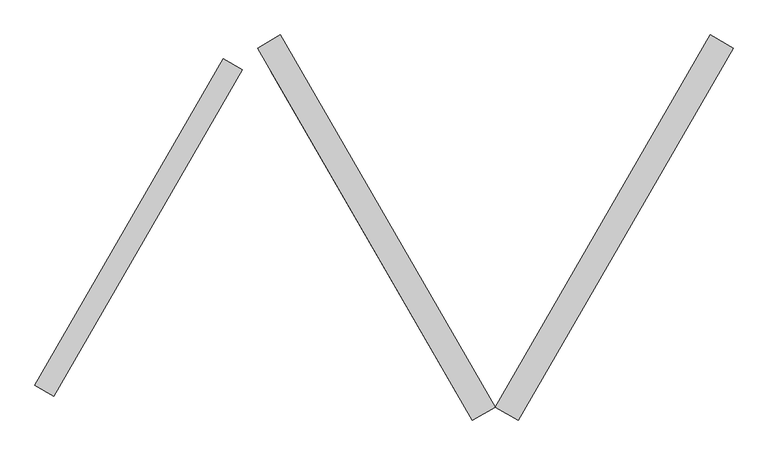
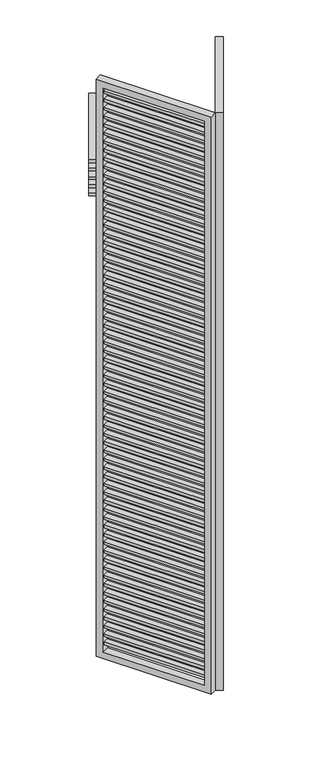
"""IFC4 building model written with IfcOpenShell, lengths in millimetres: proxy geometry, Renson_Amani_Loggia_Plano_Folding : Renson_Amani_Loggia_Plano_Folding."""

from ifc_helpers import new_model, si_unit, frame, origin, place, context, project, spatial, polyline, outline, extrude, source, transform, mapped, element, save


def generic_models_be9513f8(model_context):
    return source(origin(), model_context, "Body", "SweptSolid", [
        extrude(outline(polyline([(2105.6721051, 546.5254963), (2134.2509434, 530.0254963), (1849.2509434, 36.3910162), (1820.6721051, 52.8910162), (2105.6721051, 546.5254963)])), frame((0.0, 0.0, 3427.0), z_axis=(0.0, 0.0, 1.0), x_axis=(1.0, 0.0, 0.0)), (0.0, 0.0, 1.0), 16.0),
        extrude(outline(polyline([(2105.6721051, 546.5254963), (2134.2509434, 530.0254963), (1849.2509434, 36.3910162), (1820.6721051, 52.8910162), (2105.6721051, 546.5254963)])), frame((0.0, 0.0, 3377.0), z_axis=(0.0, 0.0, 1.0), x_axis=(1.0, 0.0, 0.0)), (0.0, 0.0, 1.0), 16.0),
        extrude(outline(polyline([(2105.6721051, 546.5254963), (2134.2509434, 530.0254963), (1849.2509434, 36.3910162), (1820.6721051, 52.8910162), (2105.6721051, 546.5254963)])), frame((0.0, 0.0, 3327.0), z_axis=(0.0, 0.0, 1.0), x_axis=(1.0, 0.0, 0.0)), (0.0, 0.0, 1.0), 16.0),
        extrude(outline(polyline([(2105.6721051, 546.5254963), (2134.2509434, 530.0254963), (1849.2509434, 36.3910162), (1820.6721051, 52.8910162), (2105.6721051, 546.5254963)])), frame((0.0, 0.0, 3277.0), z_axis=(0.0, 0.0, 1.0), x_axis=(1.0, 0.0, 0.0)), (0.0, 0.0, 1.0), 16.0),
        extrude(outline(polyline([(2105.6721051, 546.5254963), (2134.2509434, 530.0254963), (1849.2509434, 36.3910162), (1820.6721051, 52.8910162), (2105.6721051, 546.5254963)])), frame((0.0, 0.0, 3227.0), z_axis=(0.0, 0.0, 1.0), x_axis=(1.0, 0.0, 0.0)), (0.0, 0.0, 1.0), 16.0),
        extrude(outline(polyline([(2105.6721051, 546.5254963), (2134.2509434, 530.0254963), (1849.2509434, 36.3910162), (1820.6721051, 52.8910162), (2105.6721051, 546.5254963)])), frame((0.0, 0.0, 3177.0), z_axis=(0.0, 0.0, 1.0), x_axis=(1.0, 0.0, 0.0)), (0.0, 0.0, 1.0), 16.0),
        extrude(outline(polyline([(2105.6721051, 546.5254963), (2134.2509434, 530.0254963), (1849.2509434, 36.3910162), (1820.6721051, 52.8910162), (2105.6721051, 546.5254963)])), frame((0.0, 0.0, 3127.0), z_axis=(0.0, 0.0, 1.0), x_axis=(1.0, 0.0, 0.0)), (0.0, 0.0, 1.0), 16.0),
        extrude(outline(polyline([(2105.6721051, 546.5254963), (2134.2509434, 530.0254963), (1849.2509434, 36.3910162), (1820.6721051, 52.8910162), (2105.6721051, 546.5254963)])), frame((0.0, 0.0, 3077.0), z_axis=(0.0, 0.0, 1.0), x_axis=(1.0, 0.0, 0.0)), (0.0, 0.0, 1.0), 16.0),
        extrude(outline(polyline([(2105.6721051, 546.5254963), (2134.2509434, 530.0254963), (1849.2509434, 36.3910162), (1820.6721051, 52.8910162), (2105.6721051, 546.5254963)])), frame((0.0, 0.0, 3027.0), z_axis=(0.0, 0.0, 1.0), x_axis=(1.0, 0.0, 0.0)), (0.0, 0.0, 1.0), 16.0),
        extrude(outline(polyline([(2105.6721051, 546.5254963), (2134.2509434, 530.0254963), (1849.2509434, 36.3910162), (1820.6721051, 52.8910162), (2105.6721051, 546.5254963)])), frame((0.0, 0.0, 2977.0), z_axis=(0.0, 0.0, 1.0), x_axis=(1.0, 0.0, 0.0)), (0.0, 0.0, 1.0), 16.0),
        extrude(outline(polyline([(2105.6721051, 546.5254963), (2134.2509434, 530.0254963), (1849.2509434, 36.3910162), (1820.6721051, 52.8910162), (2105.6721051, 546.5254963)])), frame((0.0, 0.0, 2927.0), z_axis=(0.0, 0.0, 1.0), x_axis=(1.0, 0.0, 0.0)), (0.0, 0.0, 1.0), 16.0),
        extrude(outline(polyline([(2105.6721051, 546.5254963), (2134.2509434, 530.0254963), (1849.2509434, 36.3910162), (1820.6721051, 52.8910162), (2105.6721051, 546.5254963)])), frame((0.0, 0.0, 2877.0), z_axis=(0.0, 0.0, 1.0), x_axis=(1.0, 0.0, 0.0)), (0.0, 0.0, 1.0), 16.0),
        extrude(outline(polyline([(2105.6721051, 546.5254963), (2134.2509434, 530.0254963), (1849.2509434, 36.3910162), (1820.6721051, 52.8910162), (2105.6721051, 546.5254963)])), frame((0.0, 0.0, 2827.0), z_axis=(0.0, 0.0, 1.0), x_axis=(1.0, 0.0, 0.0)), (0.0, 0.0, 1.0), 16.0),
        extrude(outline(polyline([(2105.6721051, 546.5254963), (2134.2509434, 530.0254963), (1849.2509434, 36.3910162), (1820.6721051, 52.8910162), (2105.6721051, 546.5254963)])), frame((0.0, 0.0, 2777.0), z_axis=(0.0, 0.0, 1.0), x_axis=(1.0, 0.0, 0.0)), (0.0, 0.0, 1.0), 16.0),
        extrude(outline(polyline([(2105.6721051, 546.5254963), (2134.2509434, 530.0254963), (1849.2509434, 36.3910162), (1820.6721051, 52.8910162), (2105.6721051, 546.5254963)])), frame((0.0, 0.0, 2727.0), z_axis=(0.0, 0.0, 1.0), x_axis=(1.0, 0.0, 0.0)), (0.0, 0.0, 1.0), 16.0),
        extrude(outline(polyline([(2105.6721051, 546.5254963), (2134.2509434, 530.0254963), (1849.2509434, 36.3910162), (1820.6721051, 52.8910162), (2105.6721051, 546.5254963)])), frame((0.0, 0.0, 2677.0), z_axis=(0.0, 0.0, 1.0), x_axis=(1.0, 0.0, 0.0)), (0.0, 0.0, 1.0), 16.0),
        extrude(outline(polyline([(2105.6721051, 546.5254963), (2134.2509434, 530.0254963), (1849.2509434, 36.3910162), (1820.6721051, 52.8910162), (2105.6721051, 546.5254963)])), frame((0.0, 0.0, 2627.0), z_axis=(0.0, 0.0, 1.0), x_axis=(1.0, 0.0, 0.0)), (0.0, 0.0, 1.0), 16.0),
        extrude(outline(polyline([(2105.6721051, 546.5254963), (2134.2509434, 530.0254963), (1849.2509434, 36.3910162), (1820.6721051, 52.8910162), (2105.6721051, 546.5254963)])), frame((0.0, 0.0, 2577.0), z_axis=(0.0, 0.0, 1.0), x_axis=(1.0, 0.0, 0.0)), (0.0, 0.0, 1.0), 16.0),
        extrude(outline(polyline([(2105.6721051, 546.5254963), (2134.2509434, 530.0254963), (1849.2509434, 36.3910162), (1820.6721051, 52.8910162), (2105.6721051, 546.5254963)])), frame((0.0, 0.0, 2527.0), z_axis=(0.0, 0.0, 1.0), x_axis=(1.0, 0.0, 0.0)), (0.0, 0.0, 1.0), 16.0),
        extrude(outline(polyline([(2105.6721051, 546.5254963), (2134.2509434, 530.0254963), (1849.2509434, 36.3910162), (1820.6721051, 52.8910162), (2105.6721051, 546.5254963)])), frame((0.0, 0.0, 2477.0), z_axis=(0.0, 0.0, 1.0), x_axis=(1.0, 0.0, 0.0)), (0.0, 0.0, 1.0), 16.0),
        extrude(outline(polyline([(2105.6721051, 546.5254963), (2134.2509434, 530.0254963), (1849.2509434, 36.3910162), (1820.6721051, 52.8910162), (2105.6721051, 546.5254963)])), frame((0.0, 0.0, 2427.0), z_axis=(0.0, 0.0, 1.0), x_axis=(1.0, 0.0, 0.0)), (0.0, 0.0, 1.0), 16.0),
        extrude(outline(polyline([(2105.6721051, 546.5254963), (2134.2509434, 530.0254963), (1849.2509434, 36.3910162), (1820.6721051, 52.8910162), (2105.6721051, 546.5254963)])), frame((0.0, 0.0, 2377.0), z_axis=(0.0, 0.0, 1.0), x_axis=(1.0, 0.0, 0.0)), (0.0, 0.0, 1.0), 16.0),
        extrude(outline(polyline([(2105.6721051, 546.5254963), (2134.2509434, 530.0254963), (1849.2509434, 36.3910162), (1820.6721051, 52.8910162), (2105.6721051, 546.5254963)])), frame((0.0, 0.0, 2327.0), z_axis=(0.0, 0.0, 1.0), x_axis=(1.0, 0.0, 0.0)), (0.0, 0.0, 1.0), 16.0),
        extrude(outline(polyline([(2105.6721051, 546.5254963), (2134.2509434, 530.0254963), (1849.2509434, 36.3910162), (1820.6721051, 52.8910162), (2105.6721051, 546.5254963)])), frame((0.0, 0.0, 2277.0), z_axis=(0.0, 0.0, 1.0), x_axis=(1.0, 0.0, 0.0)), (0.0, 0.0, 1.0), 16.0),
        extrude(outline(polyline([(2105.6721051, 546.5254963), (2134.2509434, 530.0254963), (1849.2509434, 36.3910162), (1820.6721051, 52.8910162), (2105.6721051, 546.5254963)])), frame((0.0, 0.0, 2227.0), z_axis=(0.0, 0.0, 1.0), x_axis=(1.0, 0.0, 0.0)), (0.0, 0.0, 1.0), 16.0),
        extrude(outline(polyline([(2105.6721051, 546.5254963), (2134.2509434, 530.0254963), (1849.2509434, 36.3910162), (1820.6721051, 52.8910162), (2105.6721051, 546.5254963)])), frame((0.0, 0.0, 2177.0), z_axis=(0.0, 0.0, 1.0), x_axis=(1.0, 0.0, 0.0)), (0.0, 0.0, 1.0), 16.0),
        extrude(outline(polyline([(2105.6721051, 546.5254963), (2134.2509434, 530.0254963), (1849.2509434, 36.3910162), (1820.6721051, 52.8910162), (2105.6721051, 546.5254963)])), frame((0.0, 0.0, 2127.0), z_axis=(0.0, 0.0, 1.0), x_axis=(1.0, 0.0, 0.0)), (0.0, 0.0, 1.0), 16.0),
        extrude(outline(polyline([(2105.6721051, 546.5254963), (2134.2509434, 530.0254963), (1849.2509434, 36.3910162), (1820.6721051, 52.8910162), (2105.6721051, 546.5254963)])), frame((0.0, 0.0, 2077.0), z_axis=(0.0, 0.0, 1.0), x_axis=(1.0, 0.0, 0.0)), (0.0, 0.0, 1.0), 16.0),
        extrude(outline(polyline([(2105.6721051, 546.5254963), (2134.2509434, 530.0254963), (1849.2509434, 36.3910162), (1820.6721051, 52.8910162), (2105.6721051, 546.5254963)])), frame((0.0, 0.0, 2027.0), z_axis=(0.0, 0.0, 1.0), x_axis=(1.0, 0.0, 0.0)), (0.0, 0.0, 1.0), 16.0),
        extrude(outline(polyline([(2105.6721051, 546.5254963), (2134.2509434, 530.0254963), (1849.2509434, 36.3910162), (1820.6721051, 52.8910162), (2105.6721051, 546.5254963)])), frame((0.0, 0.0, 1977.0), z_axis=(0.0, 0.0, 1.0), x_axis=(1.0, 0.0, 0.0)), (0.0, 0.0, 1.0), 16.0),
        extrude(outline(polyline([(2105.6721051, 546.5254963), (2134.2509434, 530.0254963), (1849.2509434, 36.3910162), (1820.6721051, 52.8910162), (2105.6721051, 546.5254963)])), frame((0.0, 0.0, 1927.0), z_axis=(0.0, 0.0, 1.0), x_axis=(1.0, 0.0, 0.0)), (0.0, 0.0, 1.0), 16.0),
        extrude(outline(polyline([(2105.6721051, 546.5254963), (2134.2509434, 530.0254963), (1849.2509434, 36.3910162), (1820.6721051, 52.8910162), (2105.6721051, 546.5254963)])), frame((0.0, 0.0, 1877.0), z_axis=(0.0, 0.0, 1.0), x_axis=(1.0, 0.0, 0.0)), (0.0, 0.0, 1.0), 16.0),
        extrude(outline(polyline([(2105.6721051, 546.5254963), (2134.2509434, 530.0254963), (1849.2509434, 36.3910162), (1820.6721051, 52.8910162), (2105.6721051, 546.5254963)])), frame((0.0, 0.0, 1827.0), z_axis=(0.0, 0.0, 1.0), x_axis=(1.0, 0.0, 0.0)), (0.0, 0.0, 1.0), 16.0),
        extrude(outline(polyline([(2105.6721051, 546.5254963), (2134.2509434, 530.0254963), (1849.2509434, 36.3910162), (1820.6721051, 52.8910162), (2105.6721051, 546.5254963)])), frame((0.0, 0.0, 1777.0), z_axis=(0.0, 0.0, 1.0), x_axis=(1.0, 0.0, 0.0)), (0.0, 0.0, 1.0), 16.0),
        extrude(outline(polyline([(2105.6721051, 546.5254963), (2134.2509434, 530.0254963), (1849.2509434, 36.3910162), (1820.6721051, 52.8910162), (2105.6721051, 546.5254963)])), frame((0.0, 0.0, 1727.0), z_axis=(0.0, 0.0, 1.0), x_axis=(1.0, 0.0, 0.0)), (0.0, 0.0, 1.0), 16.0),
        extrude(outline(polyline([(2105.6721051, 546.5254963), (2134.2509434, 530.0254963), (1849.2509434, 36.3910162), (1820.6721051, 52.8910162), (2105.6721051, 546.5254963)])), frame((0.0, 0.0, 1677.0), z_axis=(0.0, 0.0, 1.0), x_axis=(1.0, 0.0, 0.0)), (0.0, 0.0, 1.0), 16.0),
        extrude(outline(polyline([(2105.6721051, 546.5254963), (2134.2509434, 530.0254963), (1849.2509434, 36.3910162), (1820.6721051, 52.8910162), (2105.6721051, 546.5254963)])), frame((0.0, 0.0, 1627.0), z_axis=(0.0, 0.0, 1.0), x_axis=(1.0, 0.0, 0.0)), (0.0, 0.0, 1.0), 16.0),
        extrude(outline(polyline([(2105.6721051, 546.5254963), (2134.2509434, 530.0254963), (1849.2509434, 36.3910162), (1820.6721051, 52.8910162), (2105.6721051, 546.5254963)])), frame((0.0, 0.0, 1577.0), z_axis=(0.0, 0.0, 1.0), x_axis=(1.0, 0.0, 0.0)), (0.0, 0.0, 1.0), 16.0),
        extrude(outline(polyline([(2105.6721051, 546.5254963), (2134.2509434, 530.0254963), (1849.2509434, 36.3910162), (1820.6721051, 52.8910162), (2105.6721051, 546.5254963)])), frame((0.0, 0.0, 1527.0), z_axis=(0.0, 0.0, 1.0), x_axis=(1.0, 0.0, 0.0)), (0.0, 0.0, 1.0), 16.0),
        extrude(outline(polyline([(2105.6721051, 546.5254963), (2134.2509434, 530.0254963), (1849.2509434, 36.3910162), (1820.6721051, 52.8910162), (2105.6721051, 546.5254963)])), frame((0.0, 0.0, 1477.0), z_axis=(0.0, 0.0, 1.0), x_axis=(1.0, 0.0, 0.0)), (0.0, 0.0, 1.0), 16.0),
        extrude(outline(polyline([(2105.6721051, 546.5254963), (2134.2509434, 530.0254963), (1849.2509434, 36.3910162), (1820.6721051, 52.8910162), (2105.6721051, 546.5254963)])), frame((0.0, 0.0, 1427.0), z_axis=(0.0, 0.0, 1.0), x_axis=(1.0, 0.0, 0.0)), (0.0, 0.0, 1.0), 16.0),
        extrude(outline(polyline([(2105.6721051, 546.5254963), (2134.2509434, 530.0254963), (1849.2509434, 36.3910162), (1820.6721051, 52.8910162), (2105.6721051, 546.5254963)])), frame((0.0, 0.0, 1377.0), z_axis=(0.0, 0.0, 1.0), x_axis=(1.0, 0.0, 0.0)), (0.0, 0.0, 1.0), 16.0),
        extrude(outline(polyline([(2105.6721051, 546.5254963), (2134.2509434, 530.0254963), (1849.2509434, 36.3910162), (1820.6721051, 52.8910162), (2105.6721051, 546.5254963)])), frame((0.0, 0.0, 1327.0), z_axis=(0.0, 0.0, 1.0), x_axis=(1.0, 0.0, 0.0)), (0.0, 0.0, 1.0), 16.0),
        extrude(outline(polyline([(2105.6721051, 546.5254963), (2134.2509434, 530.0254963), (1849.2509434, 36.3910162), (1820.6721051, 52.8910162), (2105.6721051, 546.5254963)])), frame((0.0, 0.0, 1277.0), z_axis=(0.0, 0.0, 1.0), x_axis=(1.0, 0.0, 0.0)), (0.0, 0.0, 1.0), 16.0),
        extrude(outline(polyline([(2105.6721051, 546.5254963), (2134.2509434, 530.0254963), (1849.2509434, 36.3910162), (1820.6721051, 52.8910162), (2105.6721051, 546.5254963)])), frame((0.0, 0.0, 1227.0), z_axis=(0.0, 0.0, 1.0), x_axis=(1.0, 0.0, 0.0)), (0.0, 0.0, 1.0), 16.0),
        extrude(outline(polyline([(2105.6721051, 546.5254963), (2134.2509434, 530.0254963), (1849.2509434, 36.3910162), (1820.6721051, 52.8910162), (2105.6721051, 546.5254963)])), frame((0.0, 0.0, 1177.0), z_axis=(0.0, 0.0, 1.0), x_axis=(1.0, 0.0, 0.0)), (0.0, 0.0, 1.0), 16.0),
        extrude(outline(polyline([(2105.6721051, 546.5254963), (2134.2509434, 530.0254963), (1849.2509434, 36.3910162), (1820.6721051, 52.8910162), (2105.6721051, 546.5254963)])), frame((0.0, 0.0, 1127.0), z_axis=(0.0, 0.0, 1.0), x_axis=(1.0, 0.0, 0.0)), (0.0, 0.0, 1.0), 16.0),
        extrude(outline(polyline([(2105.6721051, 546.5254963), (2134.2509434, 530.0254963), (1849.2509434, 36.3910162), (1820.6721051, 52.8910162), (2105.6721051, 546.5254963)])), frame((0.0, 0.0, 1077.0), z_axis=(0.0, 0.0, 1.0), x_axis=(1.0, 0.0, 0.0)), (0.0, 0.0, 1.0), 16.0),
        extrude(outline(polyline([(2105.6721051, 546.5254963), (2134.2509434, 530.0254963), (1849.2509434, 36.3910162), (1820.6721051, 52.8910162), (2105.6721051, 546.5254963)])), frame((0.0, 0.0, 1027.0), z_axis=(0.0, 0.0, 1.0), x_axis=(1.0, 0.0, 0.0)), (0.0, 0.0, 1.0), 16.0),
        extrude(outline(polyline([(2105.6721051, 546.5254963), (2134.2509434, 530.0254963), (1849.2509434, 36.3910162), (1820.6721051, 52.8910162), (2105.6721051, 546.5254963)])), frame((0.0, 0.0, 977.0), z_axis=(0.0, 0.0, 1.0), x_axis=(1.0, 0.0, 0.0)), (0.0, 0.0, 1.0), 16.0),
        extrude(outline(polyline([(2105.6721051, 546.5254963), (2134.2509434, 530.0254963), (1849.2509434, 36.3910162), (1820.6721051, 52.8910162), (2105.6721051, 546.5254963)])), frame((0.0, 0.0, 927.0), z_axis=(0.0, 0.0, 1.0), x_axis=(1.0, 0.0, 0.0)), (0.0, 0.0, 1.0), 16.0),
        extrude(outline(polyline([(2105.6721051, 546.5254963), (2134.2509434, 530.0254963), (1849.2509434, 36.3910162), (1820.6721051, 52.8910162), (2105.6721051, 546.5254963)])), frame((0.0, 0.0, 877.0), z_axis=(0.0, 0.0, 1.0), x_axis=(1.0, 0.0, 0.0)), (0.0, 0.0, 1.0), 16.0),
        extrude(outline(polyline([(2105.6721051, 546.5254963), (2134.2509434, 530.0254963), (1849.2509434, 36.3910162), (1820.6721051, 52.8910162), (2105.6721051, 546.5254963)])), frame((0.0, 0.0, 827.0), z_axis=(0.0, 0.0, 1.0), x_axis=(1.0, 0.0, 0.0)), (0.0, 0.0, 1.0), 16.0),
        extrude(outline(polyline([(2105.6721051, 546.5254963), (2134.2509434, 530.0254963), (1849.2509434, 36.3910162), (1820.6721051, 52.8910162), (2105.6721051, 546.5254963)])), frame((0.0, 0.0, 777.0), z_axis=(0.0, 0.0, 1.0), x_axis=(1.0, 0.0, 0.0)), (0.0, 0.0, 1.0), 16.0),
        extrude(outline(polyline([(2105.6721051, 546.5254963), (2134.2509434, 530.0254963), (1849.2509434, 36.3910162), (1820.6721051, 52.8910162), (2105.6721051, 546.5254963)])), frame((0.0, 0.0, 727.0), z_axis=(0.0, 0.0, 1.0), x_axis=(1.0, 0.0, 0.0)), (0.0, 0.0, 1.0), 16.0),
        extrude(outline(polyline([(2105.6721051, 546.5254963), (2134.2509434, 530.0254963), (1849.2509434, 36.3910162), (1820.6721051, 52.8910162), (2105.6721051, 546.5254963)])), frame((0.0, 0.0, 677.0), z_axis=(0.0, 0.0, 1.0), x_axis=(1.0, 0.0, 0.0)), (0.0, 0.0, 1.0), 16.0),
        extrude(outline(polyline([(2105.6721051, 546.5254963), (2134.2509434, 530.0254963), (1849.2509434, 36.3910162), (1820.6721051, 52.8910162), (2105.6721051, 546.5254963)])), frame((0.0, 0.0, 627.0), z_axis=(0.0, 0.0, 1.0), x_axis=(1.0, 0.0, 0.0)), (0.0, 0.0, 1.0), 16.0),
        extrude(outline(polyline([(2105.6721051, 546.5254963), (2134.2509434, 530.0254963), (1849.2509434, 36.3910162), (1820.6721051, 52.8910162), (2105.6721051, 546.5254963)])), frame((0.0, 0.0, 577.0), z_axis=(0.0, 0.0, 1.0), x_axis=(1.0, 0.0, 0.0)), (0.0, 0.0, 1.0), 16.0),
        extrude(outline(polyline([(2105.6721051, 546.5254963), (2134.2509434, 530.0254963), (1849.2509434, 36.3910162), (1820.6721051, 52.8910162), (2105.6721051, 546.5254963)])), frame((0.0, 0.0, 527.0), z_axis=(0.0, 0.0, 1.0), x_axis=(1.0, 0.0, 0.0)), (0.0, 0.0, 1.0), 16.0),
        extrude(outline(polyline([(2105.6721051, 546.5254963), (2134.2509434, 530.0254963), (1849.2509434, 36.3910162), (1820.6721051, 52.8910162), (2105.6721051, 546.5254963)])), frame((0.0, 0.0, 477.0), z_axis=(0.0, 0.0, 1.0), x_axis=(1.0, 0.0, 0.0)), (0.0, 0.0, 1.0), 16.0),
        extrude(outline(polyline([(2105.6721051, 546.5254963), (2134.2509434, 530.0254963), (1849.2509434, 36.3910162), (1820.6721051, 52.8910162), (2105.6721051, 546.5254963)])), frame((0.0, 0.0, 427.0), z_axis=(0.0, 0.0, 1.0), x_axis=(1.0, 0.0, 0.0)), (0.0, 0.0, 1.0), 16.0),
        extrude(outline(polyline([(2105.6721051, 546.5254963), (2134.2509434, 530.0254963), (1849.2509434, 36.3910162), (1820.6721051, 52.8910162), (2105.6721051, 546.5254963)])), frame((0.0, 0.0, 377.0), z_axis=(0.0, 0.0, 1.0), x_axis=(1.0, 0.0, 0.0)), (0.0, 0.0, 1.0), 16.0),
        extrude(outline(polyline([(2105.6721051, 546.5254963), (2134.2509434, 530.0254963), (1849.2509434, 36.3910162), (1820.6721051, 52.8910162), (2105.6721051, 546.5254963)])), frame((0.0, 0.0, 327.0), z_axis=(0.0, 0.0, 1.0), x_axis=(1.0, 0.0, 0.0)), (0.0, 0.0, 1.0), 16.0),
        extrude(outline(polyline([(2105.6721051, 546.5254963), (2134.2509434, 530.0254963), (1849.2509434, 36.3910162), (1820.6721051, 52.8910162), (2105.6721051, 546.5254963)])), frame((0.0, 0.0, 277.0), z_axis=(0.0, 0.0, 1.0), x_axis=(1.0, 0.0, 0.0)), (0.0, 0.0, 1.0), 16.0),
        extrude(outline(polyline([(2105.6721051, 546.5254963), (2134.2509434, 530.0254963), (1849.2509434, 36.3910162), (1820.6721051, 52.8910162), (2105.6721051, 546.5254963)])), frame((0.0, 0.0, 227.0), z_axis=(0.0, 0.0, 1.0), x_axis=(1.0, 0.0, 0.0)), (0.0, 0.0, 1.0), 16.0),
        extrude(outline(polyline([(2105.6721051, 546.5254963), (2134.2509434, 530.0254963), (1849.2509434, 36.3910162), (1820.6721051, 52.8910162), (2105.6721051, 546.5254963)])), frame((0.0, 0.0, 177.0), z_axis=(0.0, 0.0, 1.0), x_axis=(1.0, 0.0, 0.0)), (0.0, 0.0, 1.0), 16.0),
        extrude(outline(polyline([(2105.6721051, 546.5254963), (2134.2509434, 530.0254963), (1849.2509434, 36.3910162), (1820.6721051, 52.8910162), (2105.6721051, 546.5254963)])), frame((0.0, 0.0, 127.0), z_axis=(0.0, 0.0, 1.0), x_axis=(1.0, 0.0, 0.0)), (0.0, 0.0, 1.0), 16.0),
        extrude(outline(polyline([(3415.0, -40.0), (-40.0, -40.0), (-40.0, 610.0), (3415.0, 610.0), (3415.0, -40.0)]), holes=[polyline([(3375.0, 570.0), (0.0, 570.0), (0.0, 0.0), (3375.0, 0.0), (3375.0, 570.0)])]), frame((1852.2820323, 34.6410162, 85.0), z_axis=(-0.8660254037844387, 0.49999999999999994, 0.0), x_axis=(0.0, 0.0, 1.0)), (0.0, 0.0, 1.0), 40.0),
        extrude(outline(polyline([(1774.8919595, 52.8910162), (1746.3131212, 36.3910162), (1461.3131212, 530.0254963), (1489.8919595, 546.5254963), (1774.8919595, 52.8910162)])), frame((0.0, 0.0, 3427.0), z_axis=(0.0, 0.0, 1.0), x_axis=(1.0, 0.0, 0.0)), (0.0, 0.0, 1.0), 16.0),
        extrude(outline(polyline([(1774.8919595, 52.8910162), (1746.3131212, 36.3910162), (1461.3131212, 530.0254963), (1489.8919595, 546.5254963), (1774.8919595, 52.8910162)])), frame((0.0, 0.0, 3377.0), z_axis=(0.0, 0.0, 1.0), x_axis=(1.0, 0.0, 0.0)), (0.0, 0.0, 1.0), 16.0),
        extrude(outline(polyline([(1774.8919595, 52.8910162), (1746.3131212, 36.3910162), (1461.3131212, 530.0254963), (1489.8919595, 546.5254963), (1774.8919595, 52.8910162)])), frame((0.0, 0.0, 3327.0), z_axis=(0.0, 0.0, 1.0), x_axis=(1.0, 0.0, 0.0)), (0.0, 0.0, 1.0), 16.0),
        extrude(outline(polyline([(1774.8919595, 52.8910162), (1746.3131212, 36.3910162), (1461.3131212, 530.0254963), (1489.8919595, 546.5254963), (1774.8919595, 52.8910162)])), frame((0.0, 0.0, 3277.0), z_axis=(0.0, 0.0, 1.0), x_axis=(1.0, 0.0, 0.0)), (0.0, 0.0, 1.0), 16.0),
        extrude(outline(polyline([(1774.8919595, 52.8910162), (1746.3131212, 36.3910162), (1461.3131212, 530.0254963), (1489.8919595, 546.5254963), (1774.8919595, 52.8910162)])), frame((0.0, 0.0, 3227.0), z_axis=(0.0, 0.0, 1.0), x_axis=(1.0, 0.0, 0.0)), (0.0, 0.0, 1.0), 16.0),
        extrude(outline(polyline([(1774.8919595, 52.8910162), (1746.3131212, 36.3910162), (1461.3131212, 530.0254963), (1489.8919595, 546.5254963), (1774.8919595, 52.8910162)])), frame((0.0, 0.0, 3177.0), z_axis=(0.0, 0.0, 1.0), x_axis=(1.0, 0.0, 0.0)), (0.0, 0.0, 1.0), 16.0),
        extrude(outline(polyline([(1774.8919595, 52.8910162), (1746.3131212, 36.3910162), (1461.3131212, 530.0254963), (1489.8919595, 546.5254963), (1774.8919595, 52.8910162)])), frame((0.0, 0.0, 3127.0), z_axis=(0.0, 0.0, 1.0), x_axis=(1.0, 0.0, 0.0)), (0.0, 0.0, 1.0), 16.0),
        extrude(outline(polyline([(1774.8919595, 52.8910162), (1746.3131212, 36.3910162), (1461.3131212, 530.0254963), (1489.8919595, 546.5254963), (1774.8919595, 52.8910162)])), frame((0.0, 0.0, 3077.0), z_axis=(0.0, 0.0, 1.0), x_axis=(1.0, 0.0, 0.0)), (0.0, 0.0, 1.0), 16.0),
        extrude(outline(polyline([(1774.8919595, 52.8910162), (1746.3131212, 36.3910162), (1461.3131212, 530.0254963), (1489.8919595, 546.5254963), (1774.8919595, 52.8910162)])), frame((0.0, 0.0, 3027.0), z_axis=(0.0, 0.0, 1.0), x_axis=(1.0, 0.0, 0.0)), (0.0, 0.0, 1.0), 16.0),
        extrude(outline(polyline([(1774.8919595, 52.8910162), (1746.3131212, 36.3910162), (1461.3131212, 530.0254963), (1489.8919595, 546.5254963), (1774.8919595, 52.8910162)])), frame((0.0, 0.0, 2977.0), z_axis=(0.0, 0.0, 1.0), x_axis=(1.0, 0.0, 0.0)), (0.0, 0.0, 1.0), 16.0),
        extrude(outline(polyline([(1774.8919595, 52.8910162), (1746.3131212, 36.3910162), (1461.3131212, 530.0254963), (1489.8919595, 546.5254963), (1774.8919595, 52.8910162)])), frame((0.0, 0.0, 2927.0), z_axis=(0.0, 0.0, 1.0), x_axis=(1.0, 0.0, 0.0)), (0.0, 0.0, 1.0), 16.0),
        extrude(outline(polyline([(1774.8919595, 52.8910162), (1746.3131212, 36.3910162), (1461.3131212, 530.0254963), (1489.8919595, 546.5254963), (1774.8919595, 52.8910162)])), frame((0.0, 0.0, 2877.0), z_axis=(0.0, 0.0, 1.0), x_axis=(1.0, 0.0, 0.0)), (0.0, 0.0, 1.0), 16.0),
        extrude(outline(polyline([(1774.8919595, 52.8910162), (1746.3131212, 36.3910162), (1461.3131212, 530.0254963), (1489.8919595, 546.5254963), (1774.8919595, 52.8910162)])), frame((0.0, 0.0, 2827.0), z_axis=(0.0, 0.0, 1.0), x_axis=(1.0, 0.0, 0.0)), (0.0, 0.0, 1.0), 16.0),
        extrude(outline(polyline([(1774.8919595, 52.8910162), (1746.3131212, 36.3910162), (1461.3131212, 530.0254963), (1489.8919595, 546.5254963), (1774.8919595, 52.8910162)])), frame((0.0, 0.0, 2777.0), z_axis=(0.0, 0.0, 1.0), x_axis=(1.0, 0.0, 0.0)), (0.0, 0.0, 1.0), 16.0),
        extrude(outline(polyline([(1774.8919595, 52.8910162), (1746.3131212, 36.3910162), (1461.3131212, 530.0254963), (1489.8919595, 546.5254963), (1774.8919595, 52.8910162)])), frame((0.0, 0.0, 2727.0), z_axis=(0.0, 0.0, 1.0), x_axis=(1.0, 0.0, 0.0)), (0.0, 0.0, 1.0), 16.0),
        extrude(outline(polyline([(1774.8919595, 52.8910162), (1746.3131212, 36.3910162), (1461.3131212, 530.0254963), (1489.8919595, 546.5254963), (1774.8919595, 52.8910162)])), frame((0.0, 0.0, 2677.0), z_axis=(0.0, 0.0, 1.0), x_axis=(1.0, 0.0, 0.0)), (0.0, 0.0, 1.0), 16.0),
        extrude(outline(polyline([(1774.8919595, 52.8910162), (1746.3131212, 36.3910162), (1461.3131212, 530.0254963), (1489.8919595, 546.5254963), (1774.8919595, 52.8910162)])), frame((0.0, 0.0, 2627.0), z_axis=(0.0, 0.0, 1.0), x_axis=(1.0, 0.0, 0.0)), (0.0, 0.0, 1.0), 16.0),
        extrude(outline(polyline([(1774.8919595, 52.8910162), (1746.3131212, 36.3910162), (1461.3131212, 530.0254963), (1489.8919595, 546.5254963), (1774.8919595, 52.8910162)])), frame((0.0, 0.0, 2577.0), z_axis=(0.0, 0.0, 1.0), x_axis=(1.0, 0.0, 0.0)), (0.0, 0.0, 1.0), 16.0),
        extrude(outline(polyline([(1774.8919595, 52.8910162), (1746.3131212, 36.3910162), (1461.3131212, 530.0254963), (1489.8919595, 546.5254963), (1774.8919595, 52.8910162)])), frame((0.0, 0.0, 2527.0), z_axis=(0.0, 0.0, 1.0), x_axis=(1.0, 0.0, 0.0)), (0.0, 0.0, 1.0), 16.0),
        extrude(outline(polyline([(1774.8919595, 52.8910162), (1746.3131212, 36.3910162), (1461.3131212, 530.0254963), (1489.8919595, 546.5254963), (1774.8919595, 52.8910162)])), frame((0.0, 0.0, 2477.0), z_axis=(0.0, 0.0, 1.0), x_axis=(1.0, 0.0, 0.0)), (0.0, 0.0, 1.0), 16.0),
        extrude(outline(polyline([(1774.8919595, 52.8910162), (1746.3131212, 36.3910162), (1461.3131212, 530.0254963), (1489.8919595, 546.5254963), (1774.8919595, 52.8910162)])), frame((0.0, 0.0, 2427.0), z_axis=(0.0, 0.0, 1.0), x_axis=(1.0, 0.0, 0.0)), (0.0, 0.0, 1.0), 16.0),
        extrude(outline(polyline([(1774.8919595, 52.8910162), (1746.3131212, 36.3910162), (1461.3131212, 530.0254963), (1489.8919595, 546.5254963), (1774.8919595, 52.8910162)])), frame((0.0, 0.0, 2377.0), z_axis=(0.0, 0.0, 1.0), x_axis=(1.0, 0.0, 0.0)), (0.0, 0.0, 1.0), 16.0),
        extrude(outline(polyline([(1774.8919595, 52.8910162), (1746.3131212, 36.3910162), (1461.3131212, 530.0254963), (1489.8919595, 546.5254963), (1774.8919595, 52.8910162)])), frame((0.0, 0.0, 2327.0), z_axis=(0.0, 0.0, 1.0), x_axis=(1.0, 0.0, 0.0)), (0.0, 0.0, 1.0), 16.0),
        extrude(outline(polyline([(1774.8919595, 52.8910162), (1746.3131212, 36.3910162), (1461.3131212, 530.0254963), (1489.8919595, 546.5254963), (1774.8919595, 52.8910162)])), frame((0.0, 0.0, 2277.0), z_axis=(0.0, 0.0, 1.0), x_axis=(1.0, 0.0, 0.0)), (0.0, 0.0, 1.0), 16.0),
        extrude(outline(polyline([(1774.8919595, 52.8910162), (1746.3131212, 36.3910162), (1461.3131212, 530.0254963), (1489.8919595, 546.5254963), (1774.8919595, 52.8910162)])), frame((0.0, 0.0, 2227.0), z_axis=(0.0, 0.0, 1.0), x_axis=(1.0, 0.0, 0.0)), (0.0, 0.0, 1.0), 16.0),
        extrude(outline(polyline([(1774.8919595, 52.8910162), (1746.3131212, 36.3910162), (1461.3131212, 530.0254963), (1489.8919595, 546.5254963), (1774.8919595, 52.8910162)])), frame((0.0, 0.0, 2177.0), z_axis=(0.0, 0.0, 1.0), x_axis=(1.0, 0.0, 0.0)), (0.0, 0.0, 1.0), 16.0),
        extrude(outline(polyline([(1774.8919595, 52.8910162), (1746.3131212, 36.3910162), (1461.3131212, 530.0254963), (1489.8919595, 546.5254963), (1774.8919595, 52.8910162)])), frame((0.0, 0.0, 2127.0), z_axis=(0.0, 0.0, 1.0), x_axis=(1.0, 0.0, 0.0)), (0.0, 0.0, 1.0), 16.0),
        extrude(outline(polyline([(1774.8919595, 52.8910162), (1746.3131212, 36.3910162), (1461.3131212, 530.0254963), (1489.8919595, 546.5254963), (1774.8919595, 52.8910162)])), frame((0.0, 0.0, 2077.0), z_axis=(0.0, 0.0, 1.0), x_axis=(1.0, 0.0, 0.0)), (0.0, 0.0, 1.0), 16.0),
        extrude(outline(polyline([(1774.8919595, 52.8910162), (1746.3131212, 36.3910162), (1461.3131212, 530.0254963), (1489.8919595, 546.5254963), (1774.8919595, 52.8910162)])), frame((0.0, 0.0, 2027.0), z_axis=(0.0, 0.0, 1.0), x_axis=(1.0, 0.0, 0.0)), (0.0, 0.0, 1.0), 16.0),
        extrude(outline(polyline([(1774.8919595, 52.8910162), (1746.3131212, 36.3910162), (1461.3131212, 530.0254963), (1489.8919595, 546.5254963), (1774.8919595, 52.8910162)])), frame((0.0, 0.0, 1977.0), z_axis=(0.0, 0.0, 1.0), x_axis=(1.0, 0.0, 0.0)), (0.0, 0.0, 1.0), 16.0),
        extrude(outline(polyline([(1774.8919595, 52.8910162), (1746.3131212, 36.3910162), (1461.3131212, 530.0254963), (1489.8919595, 546.5254963), (1774.8919595, 52.8910162)])), frame((0.0, 0.0, 1927.0), z_axis=(0.0, 0.0, 1.0), x_axis=(1.0, 0.0, 0.0)), (0.0, 0.0, 1.0), 16.0),
        extrude(outline(polyline([(1774.8919595, 52.8910162), (1746.3131212, 36.3910162), (1461.3131212, 530.0254963), (1489.8919595, 546.5254963), (1774.8919595, 52.8910162)])), frame((0.0, 0.0, 1877.0), z_axis=(0.0, 0.0, 1.0), x_axis=(1.0, 0.0, 0.0)), (0.0, 0.0, 1.0), 16.0),
        extrude(outline(polyline([(1774.8919595, 52.8910162), (1746.3131212, 36.3910162), (1461.3131212, 530.0254963), (1489.8919595, 546.5254963), (1774.8919595, 52.8910162)])), frame((0.0, 0.0, 1827.0), z_axis=(0.0, 0.0, 1.0), x_axis=(1.0, 0.0, 0.0)), (0.0, 0.0, 1.0), 16.0),
        extrude(outline(polyline([(1774.8919595, 52.8910162), (1746.3131212, 36.3910162), (1461.3131212, 530.0254963), (1489.8919595, 546.5254963), (1774.8919595, 52.8910162)])), frame((0.0, 0.0, 1777.0), z_axis=(0.0, 0.0, 1.0), x_axis=(1.0, 0.0, 0.0)), (0.0, 0.0, 1.0), 16.0),
        extrude(outline(polyline([(1774.8919595, 52.8910162), (1746.3131212, 36.3910162), (1461.3131212, 530.0254963), (1489.8919595, 546.5254963), (1774.8919595, 52.8910162)])), frame((0.0, 0.0, 1727.0), z_axis=(0.0, 0.0, 1.0), x_axis=(1.0, 0.0, 0.0)), (0.0, 0.0, 1.0), 16.0),
        extrude(outline(polyline([(1774.8919595, 52.8910162), (1746.3131212, 36.3910162), (1461.3131212, 530.0254963), (1489.8919595, 546.5254963), (1774.8919595, 52.8910162)])), frame((0.0, 0.0, 1677.0), z_axis=(0.0, 0.0, 1.0), x_axis=(1.0, 0.0, 0.0)), (0.0, 0.0, 1.0), 16.0),
        extrude(outline(polyline([(1774.8919595, 52.8910162), (1746.3131212, 36.3910162), (1461.3131212, 530.0254963), (1489.8919595, 546.5254963), (1774.8919595, 52.8910162)])), frame((0.0, 0.0, 1627.0), z_axis=(0.0, 0.0, 1.0), x_axis=(1.0, 0.0, 0.0)), (0.0, 0.0, 1.0), 16.0),
        extrude(outline(polyline([(1774.8919595, 52.8910162), (1746.3131212, 36.3910162), (1461.3131212, 530.0254963), (1489.8919595, 546.5254963), (1774.8919595, 52.8910162)])), frame((0.0, 0.0, 1577.0), z_axis=(0.0, 0.0, 1.0), x_axis=(1.0, 0.0, 0.0)), (0.0, 0.0, 1.0), 16.0),
        extrude(outline(polyline([(1774.8919595, 52.8910162), (1746.3131212, 36.3910162), (1461.3131212, 530.0254963), (1489.8919595, 546.5254963), (1774.8919595, 52.8910162)])), frame((0.0, 0.0, 1527.0), z_axis=(0.0, 0.0, 1.0), x_axis=(1.0, 0.0, 0.0)), (0.0, 0.0, 1.0), 16.0),
        extrude(outline(polyline([(1774.8919595, 52.8910162), (1746.3131212, 36.3910162), (1461.3131212, 530.0254963), (1489.8919595, 546.5254963), (1774.8919595, 52.8910162)])), frame((0.0, 0.0, 1477.0), z_axis=(0.0, 0.0, 1.0), x_axis=(1.0, 0.0, 0.0)), (0.0, 0.0, 1.0), 16.0),
        extrude(outline(polyline([(1774.8919595, 52.8910162), (1746.3131212, 36.3910162), (1461.3131212, 530.0254963), (1489.8919595, 546.5254963), (1774.8919595, 52.8910162)])), frame((0.0, 0.0, 1427.0), z_axis=(0.0, 0.0, 1.0), x_axis=(1.0, 0.0, 0.0)), (0.0, 0.0, 1.0), 16.0),
        extrude(outline(polyline([(1774.8919595, 52.8910162), (1746.3131212, 36.3910162), (1461.3131212, 530.0254963), (1489.8919595, 546.5254963), (1774.8919595, 52.8910162)])), frame((0.0, 0.0, 1377.0), z_axis=(0.0, 0.0, 1.0), x_axis=(1.0, 0.0, 0.0)), (0.0, 0.0, 1.0), 16.0),
        extrude(outline(polyline([(1774.8919595, 52.8910162), (1746.3131212, 36.3910162), (1461.3131212, 530.0254963), (1489.8919595, 546.5254963), (1774.8919595, 52.8910162)])), frame((0.0, 0.0, 1327.0), z_axis=(0.0, 0.0, 1.0), x_axis=(1.0, 0.0, 0.0)), (0.0, 0.0, 1.0), 16.0),
        extrude(outline(polyline([(1774.8919595, 52.8910162), (1746.3131212, 36.3910162), (1461.3131212, 530.0254963), (1489.8919595, 546.5254963), (1774.8919595, 52.8910162)])), frame((0.0, 0.0, 1277.0), z_axis=(0.0, 0.0, 1.0), x_axis=(1.0, 0.0, 0.0)), (0.0, 0.0, 1.0), 16.0),
        extrude(outline(polyline([(1774.8919595, 52.8910162), (1746.3131212, 36.3910162), (1461.3131212, 530.0254963), (1489.8919595, 546.5254963), (1774.8919595, 52.8910162)])), frame((0.0, 0.0, 1227.0), z_axis=(0.0, 0.0, 1.0), x_axis=(1.0, 0.0, 0.0)), (0.0, 0.0, 1.0), 16.0),
        extrude(outline(polyline([(1774.8919595, 52.8910162), (1746.3131212, 36.3910162), (1461.3131212, 530.0254963), (1489.8919595, 546.5254963), (1774.8919595, 52.8910162)])), frame((0.0, 0.0, 1177.0), z_axis=(0.0, 0.0, 1.0), x_axis=(1.0, 0.0, 0.0)), (0.0, 0.0, 1.0), 16.0),
        extrude(outline(polyline([(1774.8919595, 52.8910162), (1746.3131212, 36.3910162), (1461.3131212, 530.0254963), (1489.8919595, 546.5254963), (1774.8919595, 52.8910162)])), frame((0.0, 0.0, 1127.0), z_axis=(0.0, 0.0, 1.0), x_axis=(1.0, 0.0, 0.0)), (0.0, 0.0, 1.0), 16.0),
        extrude(outline(polyline([(1774.8919595, 52.8910162), (1746.3131212, 36.3910162), (1461.3131212, 530.0254963), (1489.8919595, 546.5254963), (1774.8919595, 52.8910162)])), frame((0.0, 0.0, 1077.0), z_axis=(0.0, 0.0, 1.0), x_axis=(1.0, 0.0, 0.0)), (0.0, 0.0, 1.0), 16.0),
        extrude(outline(polyline([(1774.8919595, 52.8910162), (1746.3131212, 36.3910162), (1461.3131212, 530.0254963), (1489.8919595, 546.5254963), (1774.8919595, 52.8910162)])), frame((0.0, 0.0, 1027.0), z_axis=(0.0, 0.0, 1.0), x_axis=(1.0, 0.0, 0.0)), (0.0, 0.0, 1.0), 16.0),
        extrude(outline(polyline([(1774.8919595, 52.8910162), (1746.3131212, 36.3910162), (1461.3131212, 530.0254963), (1489.8919595, 546.5254963), (1774.8919595, 52.8910162)])), frame((0.0, 0.0, 977.0), z_axis=(0.0, 0.0, 1.0), x_axis=(1.0, 0.0, 0.0)), (0.0, 0.0, 1.0), 16.0),
        extrude(outline(polyline([(1774.8919595, 52.8910162), (1746.3131212, 36.3910162), (1461.3131212, 530.0254963), (1489.8919595, 546.5254963), (1774.8919595, 52.8910162)])), frame((0.0, 0.0, 927.0), z_axis=(0.0, 0.0, 1.0), x_axis=(1.0, 0.0, 0.0)), (0.0, 0.0, 1.0), 16.0),
        extrude(outline(polyline([(1774.8919595, 52.8910162), (1746.3131212, 36.3910162), (1461.3131212, 530.0254963), (1489.8919595, 546.5254963), (1774.8919595, 52.8910162)])), frame((0.0, 0.0, 877.0), z_axis=(0.0, 0.0, 1.0), x_axis=(1.0, 0.0, 0.0)), (0.0, 0.0, 1.0), 16.0),
        extrude(outline(polyline([(1774.8919595, 52.8910162), (1746.3131212, 36.3910162), (1461.3131212, 530.0254963), (1489.8919595, 546.5254963), (1774.8919595, 52.8910162)])), frame((0.0, 0.0, 827.0), z_axis=(0.0, 0.0, 1.0), x_axis=(1.0, 0.0, 0.0)), (0.0, 0.0, 1.0), 16.0),
        extrude(outline(polyline([(1774.8919595, 52.8910162), (1746.3131212, 36.3910162), (1461.3131212, 530.0254963), (1489.8919595, 546.5254963), (1774.8919595, 52.8910162)])), frame((0.0, 0.0, 777.0), z_axis=(0.0, 0.0, 1.0), x_axis=(1.0, 0.0, 0.0)), (0.0, 0.0, 1.0), 16.0),
        extrude(outline(polyline([(1774.8919595, 52.8910162), (1746.3131212, 36.3910162), (1461.3131212, 530.0254963), (1489.8919595, 546.5254963), (1774.8919595, 52.8910162)])), frame((0.0, 0.0, 727.0), z_axis=(0.0, 0.0, 1.0), x_axis=(1.0, 0.0, 0.0)), (0.0, 0.0, 1.0), 16.0),
        extrude(outline(polyline([(1774.8919595, 52.8910162), (1746.3131212, 36.3910162), (1461.3131212, 530.0254963), (1489.8919595, 546.5254963), (1774.8919595, 52.8910162)])), frame((0.0, 0.0, 677.0), z_axis=(0.0, 0.0, 1.0), x_axis=(1.0, 0.0, 0.0)), (0.0, 0.0, 1.0), 16.0),
        extrude(outline(polyline([(1774.8919595, 52.8910162), (1746.3131212, 36.3910162), (1461.3131212, 530.0254963), (1489.8919595, 546.5254963), (1774.8919595, 52.8910162)])), frame((0.0, 0.0, 627.0), z_axis=(0.0, 0.0, 1.0), x_axis=(1.0, 0.0, 0.0)), (0.0, 0.0, 1.0), 16.0),
        extrude(outline(polyline([(1774.8919595, 52.8910162), (1746.3131212, 36.3910162), (1461.3131212, 530.0254963), (1489.8919595, 546.5254963), (1774.8919595, 52.8910162)])), frame((0.0, 0.0, 577.0), z_axis=(0.0, 0.0, 1.0), x_axis=(1.0, 0.0, 0.0)), (0.0, 0.0, 1.0), 16.0),
        extrude(outline(polyline([(1774.8919595, 52.8910162), (1746.3131212, 36.3910162), (1461.3131212, 530.0254963), (1489.8919595, 546.5254963), (1774.8919595, 52.8910162)])), frame((0.0, 0.0, 527.0), z_axis=(0.0, 0.0, 1.0), x_axis=(1.0, 0.0, 0.0)), (0.0, 0.0, 1.0), 16.0),
        extrude(outline(polyline([(1774.8919595, 52.8910162), (1746.3131212, 36.3910162), (1461.3131212, 530.0254963), (1489.8919595, 546.5254963), (1774.8919595, 52.8910162)])), frame((0.0, 0.0, 477.0), z_axis=(0.0, 0.0, 1.0), x_axis=(1.0, 0.0, 0.0)), (0.0, 0.0, 1.0), 16.0),
        extrude(outline(polyline([(1774.8919595, 52.8910162), (1746.3131212, 36.3910162), (1461.3131212, 530.0254963), (1489.8919595, 546.5254963), (1774.8919595, 52.8910162)])), frame((0.0, 0.0, 427.0), z_axis=(0.0, 0.0, 1.0), x_axis=(1.0, 0.0, 0.0)), (0.0, 0.0, 1.0), 16.0),
        extrude(outline(polyline([(1774.8919595, 52.8910162), (1746.3131212, 36.3910162), (1461.3131212, 530.0254963), (1489.8919595, 546.5254963), (1774.8919595, 52.8910162)])), frame((0.0, 0.0, 377.0), z_axis=(0.0, 0.0, 1.0), x_axis=(1.0, 0.0, 0.0)), (0.0, 0.0, 1.0), 16.0),
        extrude(outline(polyline([(1774.8919595, 52.8910162), (1746.3131212, 36.3910162), (1461.3131212, 530.0254963), (1489.8919595, 546.5254963), (1774.8919595, 52.8910162)])), frame((0.0, 0.0, 327.0), z_axis=(0.0, 0.0, 1.0), x_axis=(1.0, 0.0, 0.0)), (0.0, 0.0, 1.0), 16.0),
        extrude(outline(polyline([(1774.8919595, 52.8910162), (1746.3131212, 36.3910162), (1461.3131212, 530.0254963), (1489.8919595, 546.5254963), (1774.8919595, 52.8910162)])), frame((0.0, 0.0, 277.0), z_axis=(0.0, 0.0, 1.0), x_axis=(1.0, 0.0, 0.0)), (0.0, 0.0, 1.0), 16.0),
        extrude(outline(polyline([(1774.8919595, 52.8910162), (1746.3131212, 36.3910162), (1461.3131212, 530.0254963), (1489.8919595, 546.5254963), (1774.8919595, 52.8910162)])), frame((0.0, 0.0, 227.0), z_axis=(0.0, 0.0, 1.0), x_axis=(1.0, 0.0, 0.0)), (0.0, 0.0, 1.0), 16.0),
        extrude(outline(polyline([(1774.8919595, 52.8910162), (1746.3131212, 36.3910162), (1461.3131212, 530.0254963), (1489.8919595, 546.5254963), (1774.8919595, 52.8910162)])), frame((0.0, 0.0, 177.0), z_axis=(0.0, 0.0, 1.0), x_axis=(1.0, 0.0, 0.0)), (0.0, 0.0, 1.0), 16.0),
        extrude(outline(polyline([(1774.8919595, 52.8910162), (1746.3131212, 36.3910162), (1461.3131212, 530.0254963), (1489.8919595, 546.5254963), (1774.8919595, 52.8910162)])), frame((0.0, 0.0, 127.0), z_axis=(0.0, 0.0, 1.0), x_axis=(1.0, 0.0, 0.0)), (0.0, 0.0, 1.0), 16.0),
        extrude(outline(polyline([(3415.0, -40.0), (-40.0, -40.0), (-40.0, 610.0), (3415.0, 610.0), (3415.0, -40.0)]), holes=[polyline([(3375.0, 570.0), (0.0, 570.0), (0.0, 0.0), (3375.0, 0.0), (3375.0, 570.0)])]), frame((1458.2820323, 528.2754963, 85.0), z_axis=(0.866025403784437, 0.500000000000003, 0.0), x_axis=(0.0, 0.0, 1.0)), (0.0, 0.0, 1.0), 40.0),
        extrude(outline(polyline([(1386.6721051, 546.5254963), (1415.2509434, 530.0254963), (1130.2509434, 36.3910162), (1101.6721051, 52.8910162), (1386.6721051, 546.5254963)])), frame((0.0, 0.0, 3427.0), z_axis=(0.0, 0.0, 1.0), x_axis=(1.0, 0.0, 0.0)), (0.0, 0.0, 1.0), 16.0),
        extrude(outline(polyline([(1386.6721051, 546.5254963), (1415.2509434, 530.0254963), (1130.2509434, 36.3910162), (1101.6721051, 52.8910162), (1386.6721051, 546.5254963)])), frame((0.0, 0.0, 3377.0), z_axis=(0.0, 0.0, 1.0), x_axis=(1.0, 0.0, 0.0)), (0.0, 0.0, 1.0), 16.0),
        extrude(outline(polyline([(1386.6721051, 546.5254963), (1415.2509434, 530.0254963), (1130.2509434, 36.3910162), (1101.6721051, 52.8910162), (1386.6721051, 546.5254963)])), frame((0.0, 0.0, 3327.0), z_axis=(0.0, 0.0, 1.0), x_axis=(1.0, 0.0, 0.0)), (0.0, 0.0, 1.0), 16.0),
        extrude(outline(polyline([(1386.6721051, 546.5254963), (1415.2509434, 530.0254963), (1130.2509434, 36.3910162), (1101.6721051, 52.8910162), (1386.6721051, 546.5254963)])), frame((0.0, 0.0, 3277.0), z_axis=(0.0, 0.0, 1.0), x_axis=(1.0, 0.0, 0.0)), (0.0, 0.0, 1.0), 16.0),
        extrude(outline(polyline([(1386.6721051, 546.5254963), (1415.2509434, 530.0254963), (1130.2509434, 36.3910162), (1101.6721051, 52.8910162), (1386.6721051, 546.5254963)])), frame((0.0, 0.0, 3227.0), z_axis=(0.0, 0.0, 1.0), x_axis=(1.0, 0.0, 0.0)), (0.0, 0.0, 1.0), 16.0),
    ])


if __name__ == "__main__":
    model = new_model("IFC4")
    model_context = context("Model", 3, world=origin())
    ifc_project = project(units=[si_unit("LENGTHUNIT", "METRE", prefix="MILLI")], contexts=[model_context])
    site = spatial("IfcSite", under=ifc_project)
    building = spatial("IfcBuilding", under=site)
    placement = place(None, origin())
    generic_models_shape = generic_models_be9513f8(model_context)
    element("IfcBuildingElementProxy", 1, Name="Renson_Amani_Loggia_Plano_Folding : Renson_Amani_Loggia_Plano_Folding", ObjectType="Renson_Amani_Loggia_Plano_Folding : Renson_Amani_Loggia_Plano_Folding", at=placement, inside=building, context=model_context, shape_type="MappedRepresentation", body=[
        mapped(generic_models_shape, transform((0.0, 0.0, 0.0), x_axis=(1.0, 0.0, 0.0), y_axis=(0.0, 1.0, 0.0), z_axis=(0.0, 0.0, 1.0))),
    ])
    save(model, "model.ifc")
